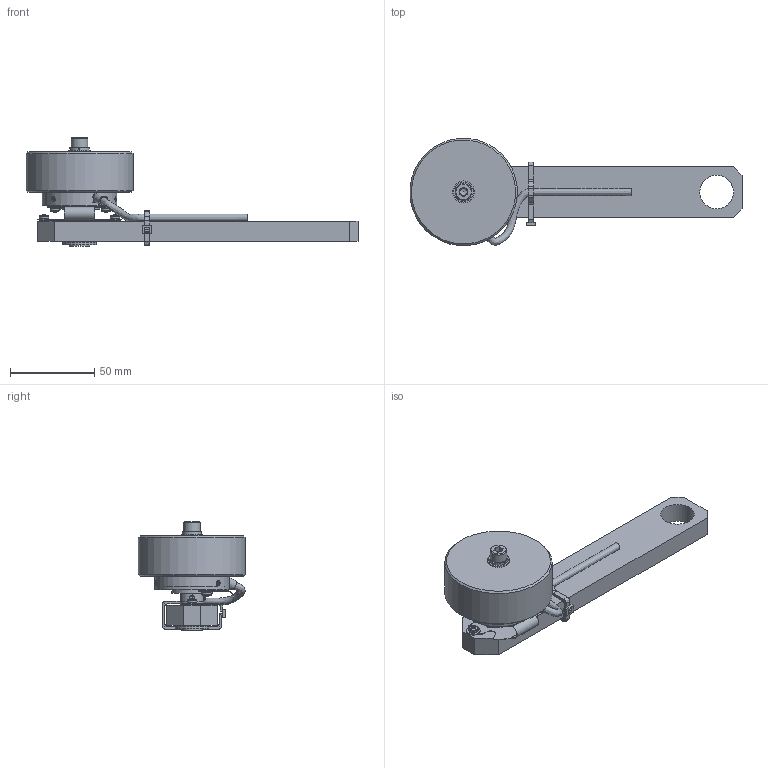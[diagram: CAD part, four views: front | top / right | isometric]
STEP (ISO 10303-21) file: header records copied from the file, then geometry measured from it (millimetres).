
FILE_DESCRIPTION(('STEP AP242'),'1');
FILE_NAME('R.stp','2023-01-05T00:40:09',(' '),(' '),'Spatial InterOp 3D',' ',' ');
FILE_SCHEMA(('AP242_MANAGED_MODEL_BASED_3D_ENGINEERING_MIM_LF {1 0 10303 442 1 1 4}'));
Length unit declared in the file: millimetre
Products named in the file (19): 六角穴付ボルト M6×15 Wセムス 4; 六角穴付ボルト M6×15 Wセムス 3; 六角穴付ボルト M6×15 Wセムス 2; 六角穴付ボルト M6×15 Wセムス; L7I01A REH-30-＊＊＊R; ナベコネジ M3X6 Wセムス 4; ナベコネジ M3X6 Wセムス 3; ナベコネジ M3X6 Wセムス 2; ナベコネジ M3X6 Wセムス; ケーブル; ゴムブッシュ(φ4.2); ベアリングナット RES30; フランジ MEH30 SP3; M3用ザガネ; コンベックスCV-100F ハンド; サラ0番1種 M2x4 鉄 三価黒; 六角穴付止めねじ M3×3
Assembly tree (27 placements, depth 3):
  L7I01A REH-30-＊＊＊R
    六角穴付ボルト M6×15 Wセムス 4
      六角穴付ボルト M6×15 Wセムス 3
      六角穴付ボルト M6×15 Wセムス 2
      六角穴付ボルト M6×15 Wセムス
    ナベコネジ M3X6 Wセムス 4  x4
      ナベコネジ M3X6 Wセムス 3
      ナベコネジ M3X6 Wセムス 2
      ナベコネジ M3X6 Wセムス
    ケーブル
      ケーブル
      ゴムブッシュ(φ4.2)
    L7I01A REH-30-＊＊＊R
    ベアリングナット RES30
    フランジ MEH30 SP3
    M3用ザガネ  x4
    コンベックスCV-100F ハンド
    サラ0番1種 M2x4 鉄 三価黒  x3
    六角穴付止めねじ M3×3  x2
Bounding box: 196.73 x 63.46 x 64.5 mm (x, y, z)
Volume: 152551.3 mm3; surface area: 46147.7 mm2
Topology: 30 solids, 31 shells, 511 faces, 1214 edges, 795 vertices
Faces by surface type: plane 275, cylinder 135, bspline 61, cone 32, sphere 4, torus 4
Full cylindrical faces by diameter (mm): 2 x6, 2.1 x3, 2.5 x7, 2.75 x4, 3 x17, 3.5 x4, 4.2 x2, 4.4 x3, 5 x3, 5.5 x4, 6 x5, 6.5 x1, 7 x1, 8 x4, 10 x3, 10.2 x1, 12 x2, 13 x1, 13.65 x1, 14 x2, 20 x2, 24 x1, 42 x1, 44 x1, 46 x1, 63.67 x1
Entity records: 14941 total; most frequent: CARTESIAN_POINT 4045, ORIENTED_EDGE 1400, DIRECTION 1387, EDGE_CURVE 700, AXIS2_PLACEMENT_3D 514, VERTEX_POINT 503, EDGE_LOOP 464, FACE_OUTER_BOUND 391
